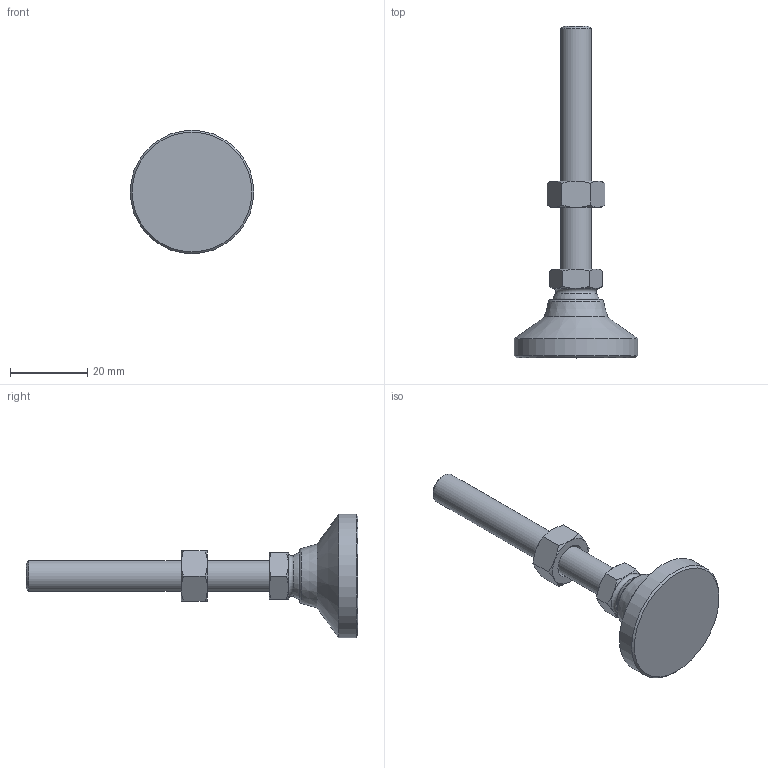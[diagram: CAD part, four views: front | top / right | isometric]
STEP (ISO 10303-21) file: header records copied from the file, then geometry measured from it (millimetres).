
FILE_DESCRIPTION( ( 'STEP AP214' ), ' ' );
FILE_NAME( 'O:/ganter_2015/teil_2/2_5/gn343_2/gn343_2_os/Levelling foot with threaded stud GN 343.2-32-M8-63-OS-(0).stp', '2015-10-26T09:06:50', ( '' ), ( '' ), ' ', 'PARTsolutions', ' ' );
FILE_SCHEMA( ( 'AUTOMOTIVE_DESIGN { 1 0 10303 214 1 1 1 1 }' ) );
Length unit declared in the file: millimetre
Products named in the file (4): Levelling foot with threaded stud GN 343.2-32-M8-63-OS-(0); _Levelling foot with threaded stud GN 343.2-32-M8-63-OS-(0)_foot; _Levelling foot with threaded stud GN 343.2-32-M8-63-OS-(0)_screw; _Stainless Steel-Levelling feet GN 343.2-32-M8-63-OS-(0)_nut
Assembly tree (3 placements, depth 2):
  Levelling foot with threaded stud GN 343.2-32-M8-63-OS-(0)
    _Levelling foot with threaded stud GN 343.2-32-M8-63-OS-(0)_foot
    _Levelling foot with threaded stud GN 343.2-32-M8-63-OS-(0)_screw
    _Stainless Steel-Levelling feet GN 343.2-32-M8-63-OS-(0)_nut
Bounding box: 32 x 86 x 32 mm (x, y, z)
Volume: 12307.6 mm3; surface area: 5537 mm2
Topology: 3 solids, 3 shells, 55 faces, 116 edges, 67 vertices
Faces by surface type: cone 30, plane 18, cylinder 3, torus 2, sphere 2
Full cylindrical faces by diameter (mm): 6.647 x1, 8 x1, 32 x1
Entity records: 2022 total; most frequent: CARTESIAN_POINT 479, DIRECTION 208, ORIENTED_EDGE 198, EDGE_CURVE 99, AXIS2_PLACEMENT_3D 98, EDGE_LOOP 70, VERTEX_POINT 65, FACE_OUTER_BOUND 60
